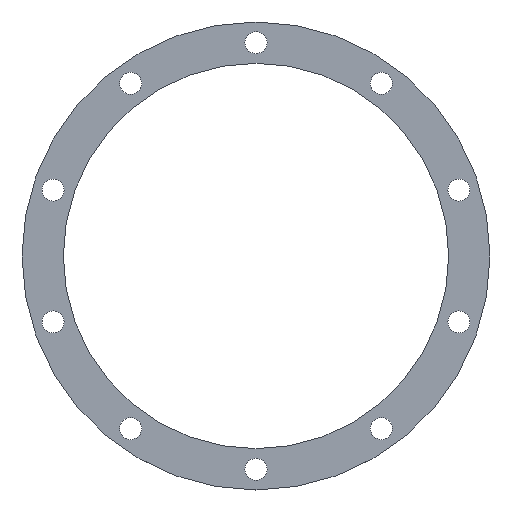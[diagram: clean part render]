
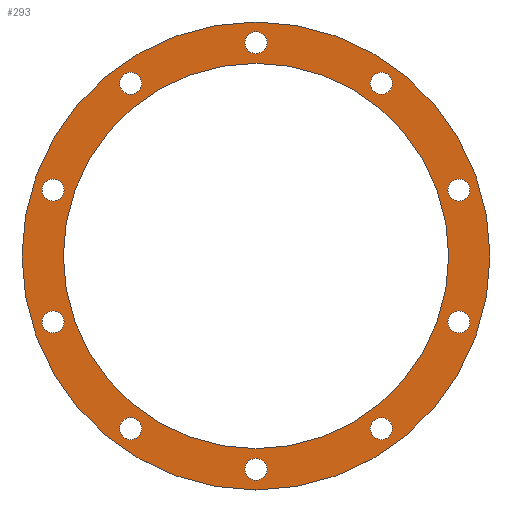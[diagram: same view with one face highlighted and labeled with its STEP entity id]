
A CAD part, top view. The second image highlights one B-rep face of the part: STEP entity #293.
In plain terms, the highlighted planar face has unit normal (0, 0, 1).
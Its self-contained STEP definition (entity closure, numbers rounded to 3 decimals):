
#15=FACE_BOUND('',#66,.T.);
#16=FACE_BOUND('',#67,.T.);
#17=FACE_BOUND('',#68,.T.);
#18=FACE_BOUND('',#69,.T.);
#19=FACE_BOUND('',#70,.T.);
#20=FACE_BOUND('',#71,.T.);
#21=FACE_BOUND('',#72,.T.);
#22=FACE_BOUND('',#73,.T.);
#23=FACE_BOUND('',#74,.T.);
#24=FACE_BOUND('',#75,.T.);
#25=FACE_BOUND('',#76,.T.);
#37=PLANE('',#351);
#51=FACE_OUTER_BOUND('',#65,.T.);
#65=EDGE_LOOP('',(#245));
#66=EDGE_LOOP('',(#246));
#67=EDGE_LOOP('',(#247));
#68=EDGE_LOOP('',(#248));
#69=EDGE_LOOP('',(#249));
#70=EDGE_LOOP('',(#250));
#71=EDGE_LOOP('',(#251));
#72=EDGE_LOOP('',(#252));
#73=EDGE_LOOP('',(#253));
#74=EDGE_LOOP('',(#254));
#75=EDGE_LOOP('',(#255));
#76=EDGE_LOOP('',(#256));
#113=CIRCLE('',#316,4.);
#115=CIRCLE('',#319,4.);
#117=CIRCLE('',#322,4.);
#119=CIRCLE('',#325,4.);
#121=CIRCLE('',#328,4.);
#123=CIRCLE('',#331,70.);
#125=CIRCLE('',#334,4.);
#127=CIRCLE('',#337,4.);
#129=CIRCLE('',#340,4.);
#131=CIRCLE('',#343,4.);
#133=CIRCLE('',#346,4.);
#135=CIRCLE('',#349,85.);
#137=VERTEX_POINT('',#445);
#139=VERTEX_POINT('',#451);
#141=VERTEX_POINT('',#457);
#143=VERTEX_POINT('',#463);
#145=VERTEX_POINT('',#469);
#147=VERTEX_POINT('',#475);
#149=VERTEX_POINT('',#481);
#151=VERTEX_POINT('',#487);
#153=VERTEX_POINT('',#493);
#155=VERTEX_POINT('',#499);
#157=VERTEX_POINT('',#505);
#159=VERTEX_POINT('',#511);
#161=EDGE_CURVE('',#137,#137,#113,.T.);
#164=EDGE_CURVE('',#139,#139,#115,.T.);
#167=EDGE_CURVE('',#141,#141,#117,.T.);
#170=EDGE_CURVE('',#143,#143,#119,.T.);
#173=EDGE_CURVE('',#145,#145,#121,.T.);
#176=EDGE_CURVE('',#147,#147,#123,.T.);
#179=EDGE_CURVE('',#149,#149,#125,.T.);
#182=EDGE_CURVE('',#151,#151,#127,.T.);
#185=EDGE_CURVE('',#153,#153,#129,.T.);
#188=EDGE_CURVE('',#155,#155,#131,.T.);
#191=EDGE_CURVE('',#157,#157,#133,.T.);
#194=EDGE_CURVE('',#159,#159,#135,.T.);
#245=ORIENTED_EDGE('',*,*,#194,.T.);
#246=ORIENTED_EDGE('',*,*,#191,.T.);
#247=ORIENTED_EDGE('',*,*,#188,.T.);
#248=ORIENTED_EDGE('',*,*,#185,.T.);
#249=ORIENTED_EDGE('',*,*,#182,.T.);
#250=ORIENTED_EDGE('',*,*,#179,.T.);
#251=ORIENTED_EDGE('',*,*,#176,.T.);
#252=ORIENTED_EDGE('',*,*,#173,.T.);
#253=ORIENTED_EDGE('',*,*,#170,.T.);
#254=ORIENTED_EDGE('',*,*,#167,.T.);
#255=ORIENTED_EDGE('',*,*,#164,.T.);
#256=ORIENTED_EDGE('',*,*,#161,.T.);
#293=ADVANCED_FACE('',(#51,#15,#16,#17,#18,#19,#20,#21,#22,#23,#24,#25),
#37,.T.);
#316=AXIS2_PLACEMENT_3D('',#446,#357,#358);
#319=AXIS2_PLACEMENT_3D('',#452,#364,#365);
#322=AXIS2_PLACEMENT_3D('',#458,#371,#372);
#325=AXIS2_PLACEMENT_3D('',#464,#378,#379);
#328=AXIS2_PLACEMENT_3D('',#470,#385,#386);
#331=AXIS2_PLACEMENT_3D('',#476,#392,#393);
#334=AXIS2_PLACEMENT_3D('',#482,#399,#400);
#337=AXIS2_PLACEMENT_3D('',#488,#406,#407);
#340=AXIS2_PLACEMENT_3D('',#494,#413,#414);
#343=AXIS2_PLACEMENT_3D('',#500,#420,#421);
#346=AXIS2_PLACEMENT_3D('',#506,#427,#428);
#349=AXIS2_PLACEMENT_3D('',#512,#434,#435);
#351=AXIS2_PLACEMENT_3D('',#516,#439,#440);
#357=DIRECTION('center_axis',(0.,0.,-1.));
#358=DIRECTION('ref_axis',(-1.,0.,0.));
#364=DIRECTION('center_axis',(0.,0.,-1.));
#365=DIRECTION('ref_axis',(-1.,0.,0.));
#371=DIRECTION('center_axis',(0.,0.,-1.));
#372=DIRECTION('ref_axis',(-1.,0.,0.));
#378=DIRECTION('center_axis',(0.,0.,-1.));
#379=DIRECTION('ref_axis',(-1.,0.,0.));
#385=DIRECTION('center_axis',(0.,0.,-1.));
#386=DIRECTION('ref_axis',(-1.,0.,0.));
#392=DIRECTION('center_axis',(0.,0.,-1.));
#393=DIRECTION('ref_axis',(-1.,0.,0.));
#399=DIRECTION('center_axis',(0.,0.,-1.));
#400=DIRECTION('ref_axis',(-1.,0.,0.));
#406=DIRECTION('center_axis',(0.,0.,-1.));
#407=DIRECTION('ref_axis',(-1.,0.,0.));
#413=DIRECTION('center_axis',(0.,0.,-1.));
#414=DIRECTION('ref_axis',(-1.,0.,0.));
#420=DIRECTION('center_axis',(0.,0.,-1.));
#421=DIRECTION('ref_axis',(-1.,0.,0.));
#427=DIRECTION('center_axis',(0.,0.,-1.));
#428=DIRECTION('ref_axis',(-1.,0.,0.));
#434=DIRECTION('center_axis',(0.,0.,1.));
#435=DIRECTION('ref_axis',(1.,0.,0.));
#439=DIRECTION('center_axis',(0.,0.,1.));
#440=DIRECTION('ref_axis',(1.,0.,0.));
#445=CARTESIAN_POINT('',(-134.,70.,1.));
#446=CARTESIAN_POINT('Origin',(-138.,70.,1.));
#451=CARTESIAN_POINT('',(-88.447,55.199,1.));
#452=CARTESIAN_POINT('Origin',(-92.447,55.199,1.));
#457=CARTESIAN_POINT('',(-179.553,55.199,1.));
#458=CARTESIAN_POINT('Origin',(-183.553,55.199,1.));
#463=CARTESIAN_POINT('',(-60.293,16.449,1.));
#464=CARTESIAN_POINT('Origin',(-64.293,16.449,1.));
#469=CARTESIAN_POINT('',(-207.707,16.449,1.));
#470=CARTESIAN_POINT('Origin',(-211.707,16.449,1.));
#475=CARTESIAN_POINT('',(-68.,-7.5,1.));
#476=CARTESIAN_POINT('Origin',(-138.,-7.5,1.));
#481=CARTESIAN_POINT('',(-134.,-85.,1.));
#482=CARTESIAN_POINT('Origin',(-138.,-85.,1.));
#487=CARTESIAN_POINT('',(-179.553,-70.199,1.));
#488=CARTESIAN_POINT('Origin',(-183.553,-70.199,1.));
#493=CARTESIAN_POINT('',(-207.707,-31.449,1.));
#494=CARTESIAN_POINT('Origin',(-211.707,-31.449,1.));
#499=CARTESIAN_POINT('',(-60.293,-31.449,1.));
#500=CARTESIAN_POINT('Origin',(-64.293,-31.449,1.));
#505=CARTESIAN_POINT('',(-88.447,-70.199,1.));
#506=CARTESIAN_POINT('Origin',(-92.447,-70.199,1.));
#511=CARTESIAN_POINT('',(-223.,-7.5,1.));
#512=CARTESIAN_POINT('Origin',(-138.,-7.5,1.));
#516=CARTESIAN_POINT('Origin',(-138.,-7.5,1.));
